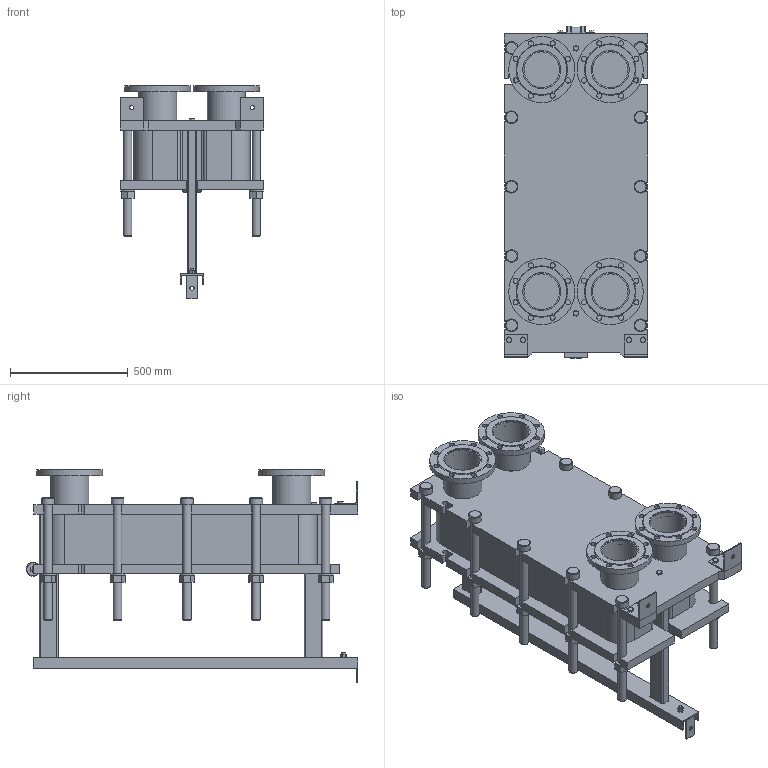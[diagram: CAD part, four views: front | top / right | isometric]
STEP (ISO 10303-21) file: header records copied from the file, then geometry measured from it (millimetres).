
FILE_DESCRIPTION(/* description */ (''),/* implementation_level */ '2;1');
FILE_NAME(/* name */ 'C:\Users\zhuro\Desktop\ENCO\TO\ЭН-041\ЭН-0,5-041-62-1.stp',/* time_stamp */ '2022-06-06T10:54:18+03:00',/* author */ ('zhuro'),/* organization */ (''),/* preprocessor_version */ 'ST-DEVELOPER v18.1',/* originating_system */ 'Autodesk Inventor 2022',/* authorisation */ '');
FILE_SCHEMA (('AUTOMOTIVE_DESIGN { 1 0 10303 214 3 1 1 }'));
Length unit declared in the file: millimetre
Products named in the file (1): ЭН-0,5-041-62-1
Bounding box: 610 x 1406.5 x 905 mm (x, y, z)
Volume: 198108128.6 mm3; surface area: 8186642.3 mm2
Topology: 52 solids, 52 shells, 711 faces, 1696 edges, 1094 vertices
Faces by surface type: plane 487, cylinder 177, cone 41, torus 6
Full cylindrical faces by diameter (mm): 8 x4, 10 x2, 16 x8, 18 x3, 22 x32, 36 x24, 50 x1, 54 x10, 60 x12, 151 x4, 161 x8, 280 x4
Entity records: 22667 total; most frequent: CARTESIAN_POINT 5230, DIRECTION 3644, ORIENTED_EDGE 3392, EDGE_CURVE 1696, AXIS2_PLACEMENT_3D 1272, LINE 1100, VECTOR 1100, VERTEX_POINT 1094
